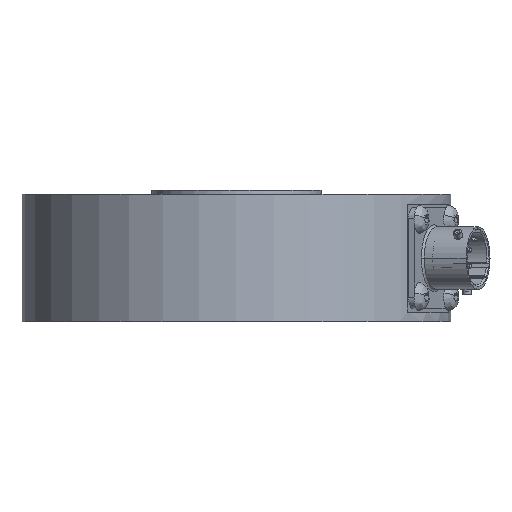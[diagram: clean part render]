
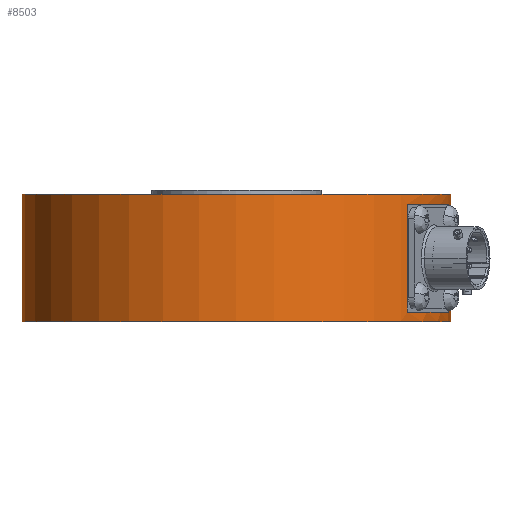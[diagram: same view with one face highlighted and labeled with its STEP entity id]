
A CAD part, front view. The second image highlights one B-rep face of the part: STEP entity #8503.
In plain terms, the highlighted cylindrical face has radius 50.495 mm (diameter 100.99 mm), a partial arc.
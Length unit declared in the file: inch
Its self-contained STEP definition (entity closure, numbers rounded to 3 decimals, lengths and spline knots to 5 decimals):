
#94 = CIRCLE ( 'NONE', #95, 1.988 ) ;
#95 = AXIS2_PLACEMENT_3D ( 'NONE', #96, #97, #98 ) ;
#96 = CARTESIAN_POINT ( 'NONE',  ( 0., 0., -0.0905 ) ) ;
#97 = DIRECTION ( 'NONE',  ( 0., 0., 1. ) ) ;
#98 = DIRECTION ( 'NONE',  ( -1., 0., 0. ) ) ;
#129 = EDGE_CURVE ( 'NONE', #1023, #3819, #4101, .T. ) ;
#347 = CARTESIAN_POINT ( 'NONE',  ( -1.988, 0., -1.1811 ) ) ;
#601 = CIRCLE ( 'NONE', #602, 1.988 ) ;
#602 = AXIS2_PLACEMENT_3D ( 'NONE', #603, #604, #605 ) ;
#603 = CARTESIAN_POINT ( 'NONE',  ( 0., 0., -1.1811 ) ) ;
#604 = DIRECTION ( 'NONE',  ( 0., 0., -1. ) ) ;
#605 = DIRECTION ( 'NONE',  ( -1., 0., 0. ) ) ;
#718 = CARTESIAN_POINT ( 'NONE',  ( 1.58629, -1.19826, -0.0905 ) ) ;
#877 = LINE ( 'NONE', #878, #881 ) ;
#878 = CARTESIAN_POINT ( 'NONE',  ( 1.988, 0., 0. ) ) ;
#881 = VECTOR ( 'NONE', #882, 39.37008 ) ;
#882 = DIRECTION ( 'NONE',  ( 0., 0., -1. ) ) ;
#925 = LINE ( 'NONE', #926, #927 ) ;
#926 = CARTESIAN_POINT ( 'NONE',  ( 1.58629, -1.19826, -0.5905 ) ) ;
#927 = VECTOR ( 'NONE', #928, 39.37008 ) ;
#928 = DIRECTION ( 'NONE',  ( 0., 0., 1. ) ) ;
#1023 = VERTEX_POINT ( 'NONE', #4525 ) ;
#1155 = EDGE_CURVE ( 'NONE', #3961, #3995, #4625, .T. ) ;
#1630 = FACE_OUTER_BOUND ( 'NONE', #8260, .T. ) ;
#1631 = FACE_BOUND ( 'NONE', #3368, .T. ) ;
#1632 = CYLINDRICAL_SURFACE ( 'NONE', #1633, 1.988 ) ;
#1633 = AXIS2_PLACEMENT_3D ( 'NONE', #1634, #1635, #1636 ) ;
#1634 = CARTESIAN_POINT ( 'NONE',  ( 0., 0., 0. ) ) ;
#1635 = DIRECTION ( 'NONE',  ( 0., 0., -1. ) ) ;
#1636 = DIRECTION ( 'NONE',  ( -1., 0., 0. ) ) ;
#1716 = ORIENTED_EDGE ( 'NONE', *, *, #3080, .F. ) ;
#1785 = CARTESIAN_POINT ( 'NONE',  ( 1.988, 0., -1.1811 ) ) ;
#2073 = ORIENTED_EDGE ( 'NONE', *, *, #2905, .T. ) ;
#2334 = ORIENTED_EDGE ( 'NONE', *, *, #1155, .F. ) ;
#2403 = ORIENTED_EDGE ( 'NONE', *, *, #7512, .F. ) ;
#2905 = EDGE_CURVE ( 'NONE', #3961, #6816, #8543, .T. ) ;
#2936 = VERTEX_POINT ( 'NONE', #8711 ) ;
#2973 = EDGE_CURVE ( 'NONE', #3103, #2936, #94, .T. ) ;
#3026 = ORIENTED_EDGE ( 'NONE', *, *, #2973, .T. ) ;
#3080 = EDGE_CURVE ( 'NONE', #3329, #6816, #601, .T. ) ;
#3103 = VERTEX_POINT ( 'NONE', #718 ) ;
#3149 = EDGE_CURVE ( 'NONE', #1023, #3103, #925, .T. ) ;
#3215 = ORIENTED_EDGE ( 'NONE', *, *, #3149, .T. ) ;
#3290 = ORIENTED_EDGE ( 'NONE', *, *, #129, .F. ) ;
#3329 = VERTEX_POINT ( 'NONE', #1785 ) ;
#3368 = EDGE_LOOP ( 'NONE', ( #3290, #3215, #3026, #3770 ) ) ;
#3722 = EDGE_CURVE ( 'NONE', #2936, #3819, #5665, .T. ) ;
#3770 = ORIENTED_EDGE ( 'NONE', *, *, #3722, .T. ) ;
#3819 = VERTEX_POINT ( 'NONE', #6060 ) ;
#3961 = VERTEX_POINT ( 'NONE', #6686 ) ;
#3995 = VERTEX_POINT ( 'NONE', #6862 ) ;
#4101 = CIRCLE ( 'NONE', #4102, 1.988 ) ;
#4102 = AXIS2_PLACEMENT_3D ( 'NONE', #4103, #4104, #4105 ) ;
#4103 = CARTESIAN_POINT ( 'NONE',  ( 0., 0., -1.0905 ) ) ;
#4104 = DIRECTION ( 'NONE',  ( 0., 0., 1. ) ) ;
#4105 = DIRECTION ( 'NONE',  ( -1., 0., 0. ) ) ;
#4525 = CARTESIAN_POINT ( 'NONE',  ( 1.58629, -1.19826, -1.0905 ) ) ;
#4625 = CIRCLE ( 'NONE', #4626, 1.988 ) ;
#4626 = AXIS2_PLACEMENT_3D ( 'NONE', #4627, #4628, #4629 ) ;
#4627 = CARTESIAN_POINT ( 'NONE',  ( 0., 0., 0. ) ) ;
#4628 = DIRECTION ( 'NONE',  ( 0., 0., 1. ) ) ;
#4629 = DIRECTION ( 'NONE',  ( -1., 0., 0. ) ) ;
#5665 = LINE ( 'NONE', #5666, #5667 ) ;
#5666 = CARTESIAN_POINT ( 'NONE',  ( 1.96897, -0.27438, -0.5905 ) ) ;
#5667 = VECTOR ( 'NONE', #5668, 39.37008 ) ;
#5668 = DIRECTION ( 'NONE',  ( 0., 0., -1. ) ) ;
#6060 = CARTESIAN_POINT ( 'NONE',  ( 1.96897, -0.27438, -1.0905 ) ) ;
#6686 = CARTESIAN_POINT ( 'NONE',  ( -1.988, 0., 0. ) ) ;
#6816 = VERTEX_POINT ( 'NONE', #347 ) ;
#6862 = CARTESIAN_POINT ( 'NONE',  ( 1.988, 0., 0. ) ) ;
#7512 = EDGE_CURVE ( 'NONE', #3995, #3329, #877, .T. ) ;
#8260 = EDGE_LOOP ( 'NONE', ( #2403, #2334, #2073, #1716 ) ) ;
#8503 = ADVANCED_FACE ( 'NONE', ( #1630, #1631 ), #1632, .T. ) ;
#8543 = LINE ( 'NONE', #8544, #8545 ) ;
#8544 = CARTESIAN_POINT ( 'NONE',  ( -1.988, 0., 0. ) ) ;
#8545 = VECTOR ( 'NONE', #8546, 39.37008 ) ;
#8546 = DIRECTION ( 'NONE',  ( 0., 0., -1. ) ) ;
#8711 = CARTESIAN_POINT ( 'NONE',  ( 1.96897, -0.27438, -0.0905 ) ) ;
